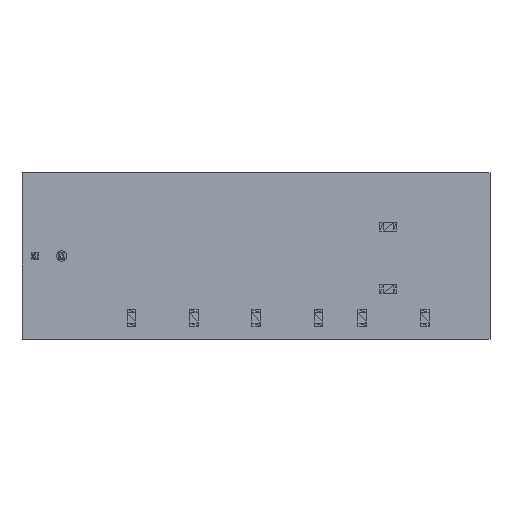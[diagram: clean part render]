
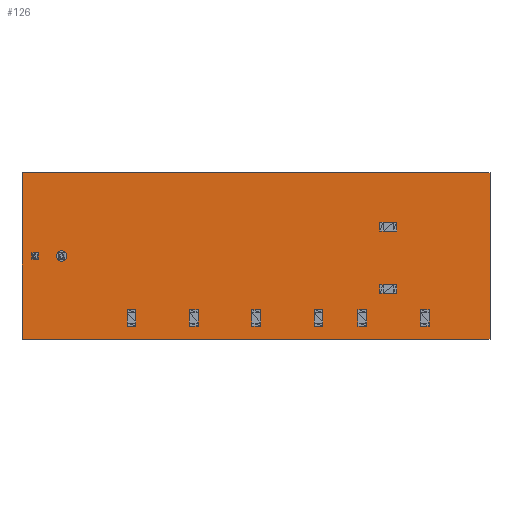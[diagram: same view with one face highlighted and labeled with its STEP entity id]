
A CAD part, top view. The second image highlights one B-rep face of the part: STEP entity #126.
In plain terms, the highlighted planar face has unit normal (0, 0, 1).
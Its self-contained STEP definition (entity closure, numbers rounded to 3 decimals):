
#22 = CARTESIAN_POINT('',(-22.5,-8.,0.7));
#23 = VERTEX_POINT('',#22);
#24 = CARTESIAN_POINT('',(22.5,-8.,0.7));
#25 = VERTEX_POINT('',#24);
#26 = CARTESIAN_POINT('',(22.5,8.,0.7));
#27 = VERTEX_POINT('',#26);
#28 = CARTESIAN_POINT('',(-22.5,8.,0.7));
#29 = VERTEX_POINT('',#28);
#46 = DIRECTION('',(1.,0.,0.));
#47 = VECTOR('',#46,45.);
#48 = LINE('',#22,#47);
#49 = EDGE_CURVE('',#23,#25,#48,.T.);
#50 = DIRECTION('',(0.,1.,0.));
#51 = VECTOR('',#50,16.);
#52 = LINE('',#24,#51);
#53 = EDGE_CURVE('',#25,#27,#52,.T.);
#54 = DIRECTION('',(-1.,0.,0.));
#55 = VECTOR('',#54,45.);
#56 = LINE('',#26,#55);
#57 = EDGE_CURVE('',#27,#29,#56,.T.);
#58 = DIRECTION('',(0.,-1.,0.));
#59 = VECTOR('',#58,16.);
#60 = LINE('',#28,#59);
#61 = EDGE_CURVE('',#29,#23,#60,.T.);
#79 = DIRECTION('',(1.,0.,0.));
#80 = DIRECTION('',(0.,0.,1.));
#89 = CARTESIAN_POINT('',(0.,0.,0.7));
#90 = AXIS2_PLACEMENT_3D('',#89,#80,#79);
#91 = PLANE('',#90);
#92 = ORIENTED_EDGE('',*,*,#49,.F.);
#93 = ORIENTED_EDGE('',*,*,#53,.F.);
#94 = ORIENTED_EDGE('',*,*,#57,.F.);
#95 = ORIENTED_EDGE('',*,*,#61,.F.);
#96 = EDGE_LOOP('',(#92,#93,#94,#95));
#104 = CARTESIAN_POINT('',(-18.73,0.,0.7));
#105 = CARTESIAN_POINT('',(-18.23,0.,0.7));
#106 = VERTEX_POINT('',#105);
#107 = AXIS2_PLACEMENT_3D('',#104,#80,#79);
#108 = CIRCLE('',#107,0.5);
#109 = EDGE_CURVE('',#106,#106,#108,.T.);
#112 = ORIENTED_EDGE('',*,*,#109,.T.);
#113 = EDGE_LOOP('',(#112));
#122 = FACE_BOUND('',#113,.T.);
#125 = FACE_OUTER_BOUND('',#96,.T.);
#126 = ADVANCED_FACE('',(#125,#122),#91,.T.);
